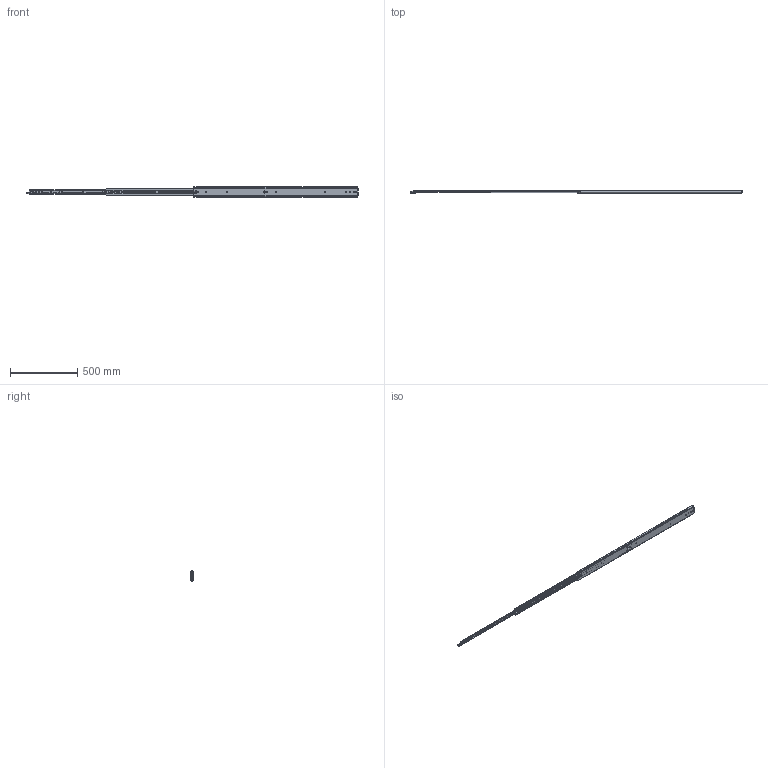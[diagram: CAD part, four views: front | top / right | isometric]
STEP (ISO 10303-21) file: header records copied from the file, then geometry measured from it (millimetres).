
FILE_DESCRIPTION((''),'2;1');
FILE_NAME('DG-76-3S-48ZUO_ASM','2023-05-11T',('jishu015'),(''),'PRO/ENGINEER BY PARAMETRIC TECHNOLOGY CORPORATION, 2010280','PRO/ENGINEER BY PARAMETRIC TECHNOLOGY CORPORATION, 2010280','');
FILE_SCHEMA(('CONFIG_CONTROL_DESIGN'));
Products named in the file (29): KP-76-04WAIKE-1816___________; 1076-WAIKEZIDANJIAO1621; WAIK16____________ASM; 1076XIAOZHUTIAO-2251621; 16___________; 1076XIAOZHUTIAO-1751621_ASM; KP-76-04ZHONGGUI1816___________; 76CHANGGUIZHONGGUIJIAO1621___; 3X6WODIN16___________; ZHONGGUIBAIKOU16___________; PJ-76-30__________; PJ-76-03__________; 76-XIAOZHUJIA-11__________; GANGZHU-XIAO__________; ZHUJIA-XIAO___________ASM; ZHONGGUI6____________ASM; KP-76-04NEIGUI1816___________; PJ-76-31__________; DAOGPIAN16___________; 1053-3SBANJ01__________; JIAO-11__________; 76XINSUOKOU__________; PJ-338__________; PJ-356__________; PJ-357__________; PJ-336__________; M4X4__________; NEIGUI16____________ASM; DG-76-3S-48ZUO_ASM
Assembly tree (95 placements, depth 4):
  DG-76-3S-48ZUO_ASM
    WAIK16____________ASM
      KP-76-04WAIKE-1816___________
      1076-WAIKEZIDANJIAO1621  x2
    1076XIAOZHUTIAO-1751621_ASM  x2
      1076XIAOZHUTIAO-2251621
      16___________
    ZHONGGUI6____________ASM
      KP-76-04ZHONGGUI1816___________
      76CHANGGUIZHONGGUIJIAO1621___
      3X6WODIN16___________
      ZHONGGUIBAIKOU16___________
      PJ-76-30__________
      PJ-76-03__________
      ZHUJIA-XIAO___________ASM
        76-XIAOZHUJIA-11__________
        GANGZHU-XIAO__________  x46
    NEIGUI16____________ASM
      KP-76-04NEIGUI1816___________
      PJ-76-31__________
      DAOGPIAN16___________
      1053-3SBANJ01__________
      JIAO-11__________
      76XINSUOKOU__________
      PJ-338__________
      PJ-356__________
      PJ-357__________
      PJ-336__________
      M4X4__________
Bounding box: 2464.32 x 20.7 x 75.3 mm (x, y, z)
Volume: 802679.6 mm3; surface area: 774385.1 mm2
Topology: 112 solids, 112 shells, 2682 faces, 8192 edges, 5169 vertices
Faces by surface type: plane 1384, cylinder 988, sphere 183, bspline 60, cone 28, extrusion 23, torus 16
Entity records: 86045 total; most frequent: CARTESIAN_POINT 22842, ORIENTED_EDGE 13904, DIRECTION 12468, EDGE_CURVE 6952, VERTEX_POINT 4529, AXIS2_PLACEMENT_3D 4314, VECTOR 3840, LINE 3817
